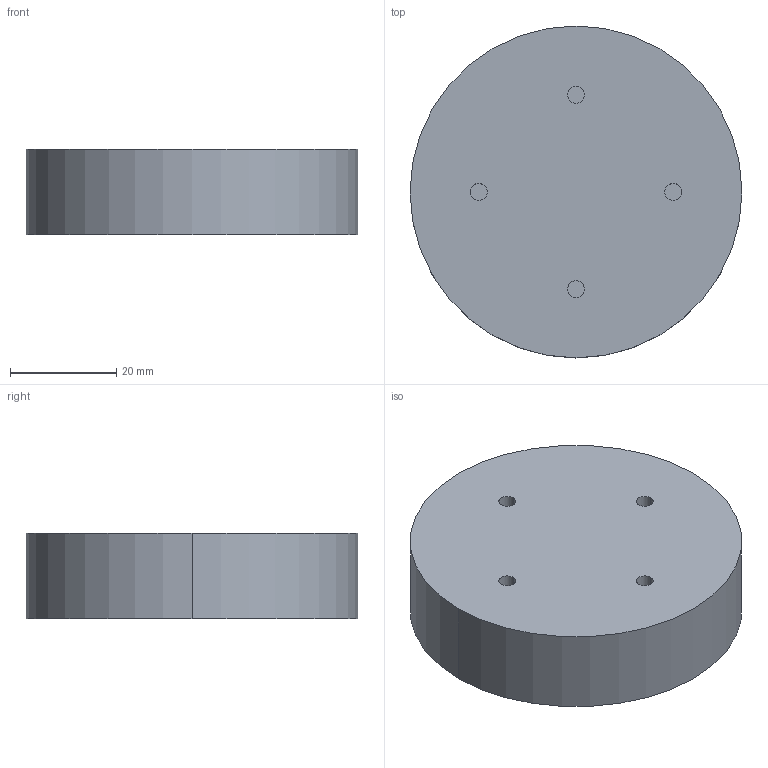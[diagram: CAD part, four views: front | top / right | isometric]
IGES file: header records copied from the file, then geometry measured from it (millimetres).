
Start section: SolidWorks IGES file using analytic representation for surfaces
Global section: file name: S:\Product Visuals\Pumps to be Defeatured\140 fittings\FITTING ASSEMBLIES\DEFEATURED\top-check-plug.IGS; native system: SolidWorks 2012; preprocessor: SolidWorks 2012; author: rachel.dressel; date: 121206.085748; units: inch
Bounding box: 62.33 x 62.33 x 16.05 mm (x, y, z)
Volume: 48582.1 mm3; surface area: 9753.1 mm2
Topology: 1 solids, 1 shells, 16 faces, 30 edges, 20 vertices
Faces by surface type: revolution 10, plane 6
